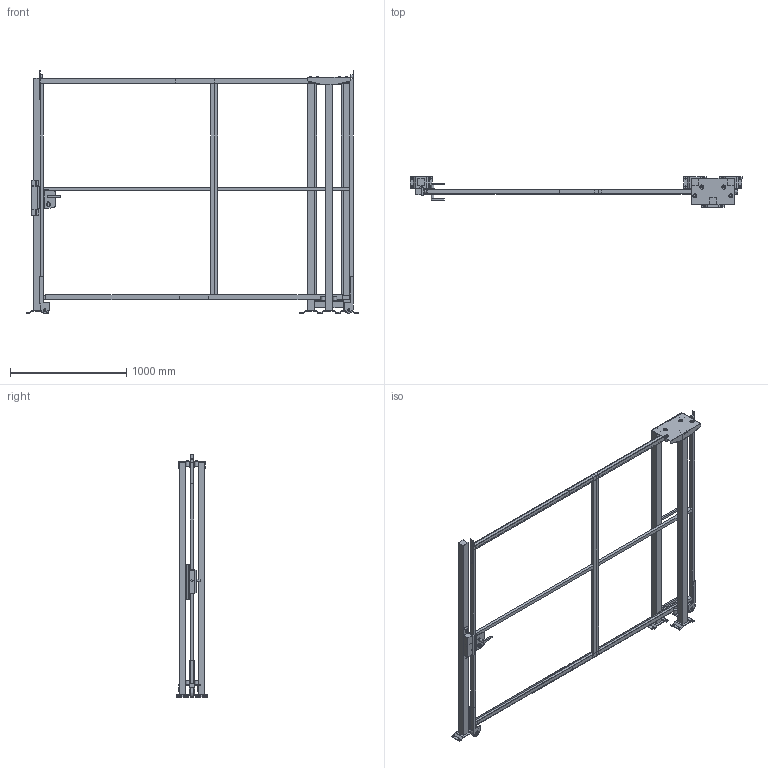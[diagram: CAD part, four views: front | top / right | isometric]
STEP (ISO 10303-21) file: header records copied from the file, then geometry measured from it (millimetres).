
FILE_DESCRIPTION(/* description */ (''),/* implementation_level */ '2;1');
FILE_NAME(/* name */ 'C:\SafeGuarding\ELABORATI\KLADKOUGAMMA_2025-03-20-13-51-43.stp',/* time_stamp */ '2025-03-20T13:51:47+01:00',/* author */ ('admin'),/* organization */ (''),/* preprocessor_version */ 'ST-DEVELOPER v18.1',/* originating_system */ 'AutoCAD Mechanical',/* authorisation */ '');
FILE_SCHEMA (('AUTOMOTIVE_DESIGN { 1 0 10303 214 3 1 1 }'));
Length unit declared in the file: millimetre
Products named in the file (5): Product; R_VFPA.REPE30.12001900; R_VFPA.REPE30.15001900; R_VFPA.REPE20.02501900; P_VFMA.V260SDU.2020
Assembly tree (7 placements, depth 2):
  Product
    R_VFPA.REPE30.12001900
    R_VFPA.REPE30.15001900
    P_VFMA.V260SDU.2020  x4
    R_VFPA.REPE20.02501900
Bounding box: 2862 x 264 x 2090.02 mm (x, y, z)
Volume: 49231157.4 mm3; surface area: 6644688.9 mm2
Topology: 68 solids, 68 shells, 608 faces, 1762 edges, 1749 vertices
Faces by surface type: plane 530, cylinder 74, bspline 4
Full cylindrical faces by diameter (mm): 9 x4, 11 x16, 13 x4, 18 x1, 25 x2, 25.398 x2, 30 x6, 36 x8, 80 x2
Entity records: 18281 total; most frequent: CARTESIAN_POINT 4759, DIRECTION 2694, ORIENTED_EDGE 2374, LINE 1242, VECTOR 1242, EDGE_CURVE 1187, VERTEX_POINT 798, AXIS2_PLACEMENT_3D 726
